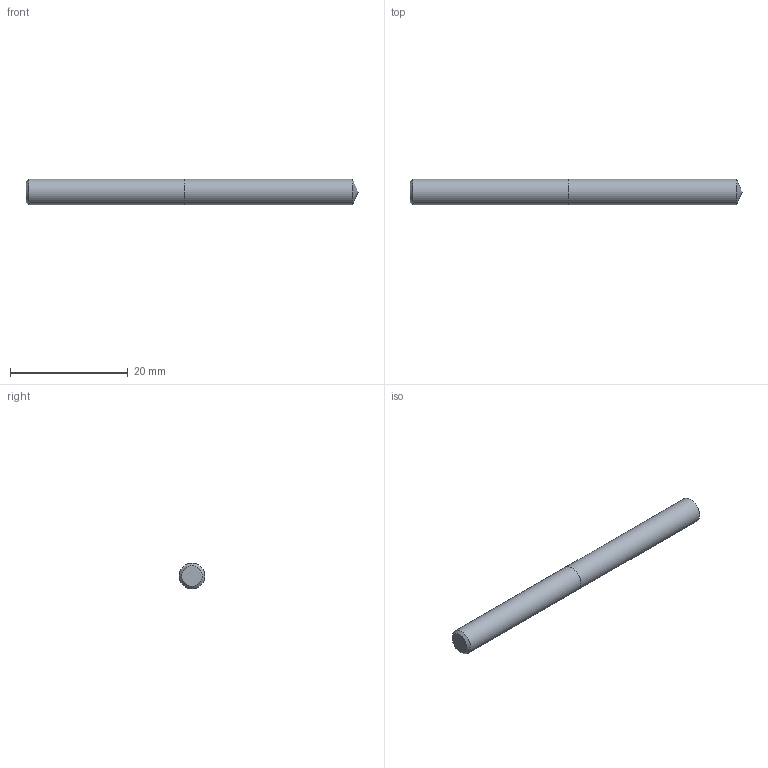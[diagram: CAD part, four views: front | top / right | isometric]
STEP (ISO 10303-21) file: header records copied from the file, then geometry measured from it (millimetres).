
FILE_DESCRIPTION (( 'STEP AP214' ), '1' );
FILE_NAME ('03-2359.STEP', '2022-06-03T06:42:14', ( 'USER' ), ( '' ), 'SwSTEP 2.0', 'SolidWorks 2018', '' );
FILE_SCHEMA (( 'AUTOMOTIVE_DESIGN' ));
Length unit declared in the file: inch
Products named in the file (1): 03-2359
Bounding box: 56.47 x 4.39 x 4.39 mm (x, y, z)
Volume: 846 mm3; surface area: 825.1 mm2
Topology: 2 solids, 2 shells, 7 faces, 11 edges, 7 vertices
Faces by surface type: plane 3, cylinder 2, cone 2
Full cylindrical faces by diameter (mm): 4.394 x2
Entity records: 214 total; most frequent: DIRECTION 26, CARTESIAN_POINT 18, AXIS2_PLACEMENT_3D 13, ORIENTED_EDGE 10, EDGE_LOOP 10, FACE_OUTER_BOUND 9, ADVANCED_FACE 7, DIMENSIONAL_EXPONENTS 7
